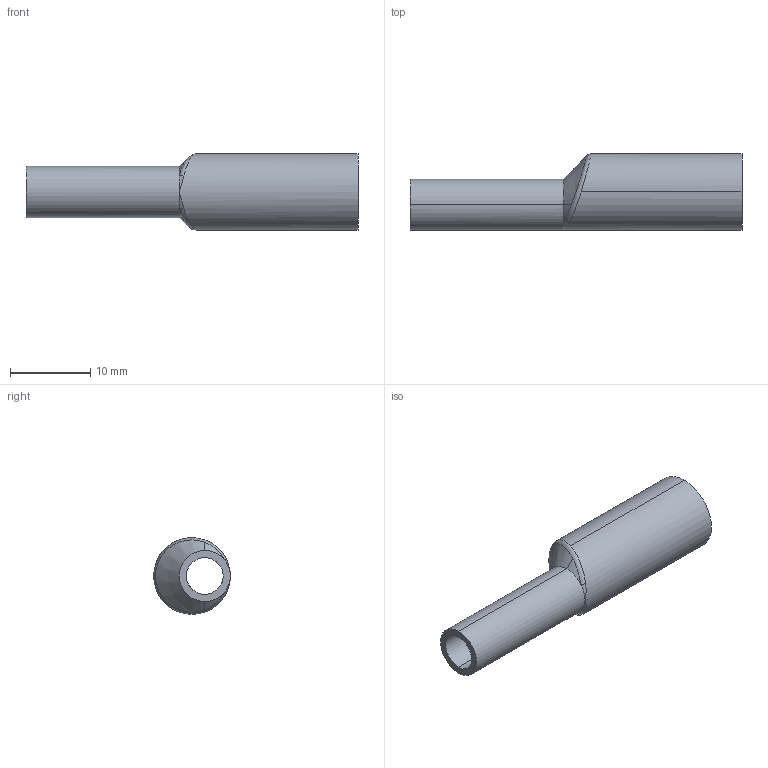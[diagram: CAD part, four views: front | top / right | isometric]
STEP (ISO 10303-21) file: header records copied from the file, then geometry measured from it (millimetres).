
FILE_DESCRIPTION (( 'STEP AP214' ), '1' );
FILE_NAME ('TE32SWW6L.375x.25-...STEP', '2016-06-01T08:19:51', ( 'eran' ), ( '' ), 'SwSTEP 2.0', 'SolidWorks 2016', '' );
FILE_SCHEMA (( 'AUTOMOTIVE_DESIGN' ));
Length unit declared in the file: millimetre
Products named in the file (1): TE32SWW6L.375x.25-..
Bounding box: 41.27 x 9.53 x 9.53 mm (x, y, z)
Volume: 1115.8 mm3; surface area: 1801.4 mm2
Topology: 1 solids, 1 shells, 19 faces, 43 edges, 26 vertices
Faces by surface type: cylinder 8, cone 5, torus 2, plane 2, bspline 2
Entity records: 1000 total; most frequent: CARTESIAN_POINT 553, ORIENTED_EDGE 86, DIRECTION 85, EDGE_CURVE 43, AXIS2_PLACEMENT_3D 37, VERTEX_POINT 26, EDGE_LOOP 21, CIRCLE 19
